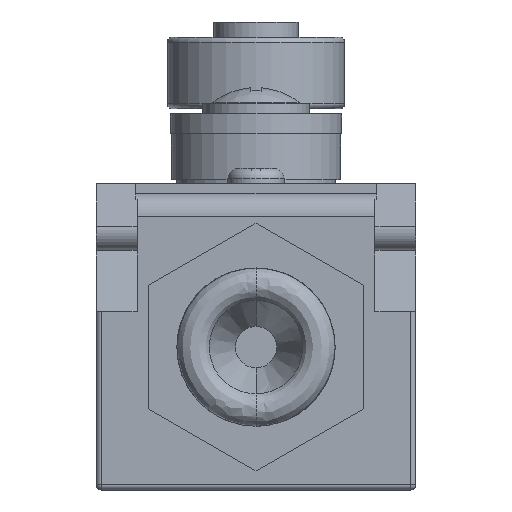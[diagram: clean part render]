
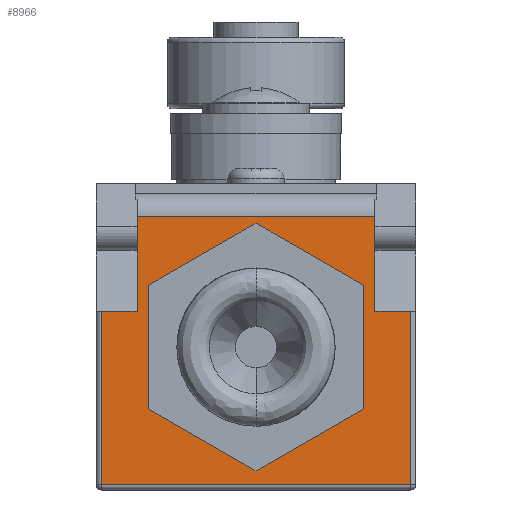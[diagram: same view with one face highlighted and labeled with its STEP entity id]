
A CAD part, front view. The second image highlights one B-rep face of the part: STEP entity #8966.
In plain terms, the highlighted planar face has unit normal (0, -1, 0).
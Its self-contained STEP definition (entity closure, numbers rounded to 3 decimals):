
#475 = FACE_BOUND ( 'NONE', #9394, .T. ) ;
#477 = FACE_OUTER_BOUND ( 'NONE', #9351, .T. ) ;
#928 = LINE ( 'NONE', #929, #3576 ) ;
#929 = CARTESIAN_POINT ( 'NONE',  ( -11.65, -30., 6.8 ) ) ;
#930 = DIRECTION ( 'NONE',  ( 0., 0., -1. ) ) ;
#931 = LINE ( 'NONE', #932, #3577 ) ;
#932 = CARTESIAN_POINT ( 'NONE',  ( -15.65, -30., 16.071 ) ) ;
#933 = DIRECTION ( 'NONE',  ( -1., 0., 0. ) ) ;
#934 = LINE ( 'NONE', #935, #3563 ) ;
#935 = CARTESIAN_POINT ( 'NONE',  ( -11.65, -30., 6.8 ) ) ;
#936 = DIRECTION ( 'NONE',  ( -1., 0., 0. ) ) ;
#937 = LINE ( 'NONE', #938, #3555 ) ;
#938 = CARTESIAN_POINT ( 'NONE',  ( -15.15, -30., 10.7 ) ) ;
#939 = DIRECTION ( 'NONE',  ( 0., 0., -1. ) ) ;
#940 = LINE ( 'NONE', #941, #3564 ) ;
#941 = CARTESIAN_POINT ( 'NONE',  ( 15.65, -30., -10.2 ) ) ;
#942 = DIRECTION ( 'NONE',  ( 1., 0., 0. ) ) ;
#943 = LINE ( 'NONE', #944, #3557 ) ;
#944 = CARTESIAN_POINT ( 'NONE',  ( 15.15, -30., 10.7 ) ) ;
#945 = DIRECTION ( 'NONE',  ( 0., 0., 1. ) ) ;
#946 = LINE ( 'NONE', #947, #3559 ) ;
#947 = CARTESIAN_POINT ( 'NONE',  ( 11.65, -30., 6.8 ) ) ;
#948 = DIRECTION ( 'NONE',  ( 1., 0., 0. ) ) ;
#949 = LINE ( 'NONE', #950, #3562 ) ;
#950 = CARTESIAN_POINT ( 'NONE',  ( -10.5, -30., 9.362 ) ) ;
#951 = DIRECTION ( 'NONE',  ( 0., 0., -1. ) ) ;
#952 = LINE ( 'NONE', #953, #3572 ) ;
#953 = CARTESIAN_POINT ( 'NONE',  ( 11.65, -30., 6.8 ) ) ;
#954 = DIRECTION ( 'NONE',  ( 0., 0., -1. ) ) ;
#955 = LINE ( 'NONE', #956, #3568 ) ;
#956 = CARTESIAN_POINT ( 'NONE',  ( -10.5, -30., -2.762 ) ) ;
#957 = DIRECTION ( 'NONE',  ( 0.866, 0., -0.5 ) ) ;
#958 = LINE ( 'NONE', #959, #3579 ) ;
#959 = CARTESIAN_POINT ( 'NONE',  ( 0., -30., 15.424 ) ) ;
#960 = DIRECTION ( 'NONE',  ( -0.866, 0., -0.5 ) ) ;
#961 = LINE ( 'NONE', #962, #3528 ) ;
#962 = CARTESIAN_POINT ( 'NONE',  ( 10.5, -30., 9.362 ) ) ;
#963 = DIRECTION ( 'NONE',  ( -0.866, 0., 0.5 ) ) ;
#964 = LINE ( 'NONE', #965, #3814 ) ;
#965 = CARTESIAN_POINT ( 'NONE',  ( 10.5, -30., -2.762 ) ) ;
#966 = DIRECTION ( 'NONE',  ( 0., 0., 1. ) ) ;
#967 = LINE ( 'NONE', #968, #3548 ) ;
#968 = CARTESIAN_POINT ( 'NONE',  ( 0., -30., -8.824 ) ) ;
#969 = DIRECTION ( 'NONE',  ( 0.866, 0., 0.5 ) ) ;
#2498 = VERTEX_POINT ( 'NONE', #2866 ) ;
#2499 = VERTEX_POINT ( 'NONE', #2867 ) ;
#2500 = VERTEX_POINT ( 'NONE', #2868 ) ;
#2501 = VERTEX_POINT ( 'NONE', #2869 ) ;
#2502 = VERTEX_POINT ( 'NONE', #2870 ) ;
#2503 = VERTEX_POINT ( 'NONE', #2871 ) ;
#2504 = VERTEX_POINT ( 'NONE', #2872 ) ;
#2505 = VERTEX_POINT ( 'NONE', #2873 ) ;
#2506 = VERTEX_POINT ( 'NONE', #2874 ) ;
#2507 = VERTEX_POINT ( 'NONE', #2875 ) ;
#2508 = VERTEX_POINT ( 'NONE', #2876 ) ;
#2509 = VERTEX_POINT ( 'NONE', #2877 ) ;
#2510 = VERTEX_POINT ( 'NONE', #2878 ) ;
#2511 = VERTEX_POINT ( 'NONE', #2879 ) ;
#2866 = CARTESIAN_POINT ( 'NONE',  ( 10.5, -30., -2.762 ) ) ;
#2867 = CARTESIAN_POINT ( 'NONE',  ( 10.5, -30., 9.362 ) ) ;
#2868 = CARTESIAN_POINT ( 'NONE',  ( 0., -30., 15.424 ) ) ;
#2869 = CARTESIAN_POINT ( 'NONE',  ( -10.5, -30., 9.362 ) ) ;
#2870 = CARTESIAN_POINT ( 'NONE',  ( 0., -30., -8.824 ) ) ;
#2871 = CARTESIAN_POINT ( 'NONE',  ( -10.5, -30., -2.762 ) ) ;
#2872 = CARTESIAN_POINT ( 'NONE',  ( 11.65, -30., 6.8 ) ) ;
#2873 = CARTESIAN_POINT ( 'NONE',  ( 15.15, -30., 6.8 ) ) ;
#2874 = CARTESIAN_POINT ( 'NONE',  ( 15.15, -30., -10.2 ) ) ;
#2875 = CARTESIAN_POINT ( 'NONE',  ( -15.15, -30., -10.2 ) ) ;
#2876 = CARTESIAN_POINT ( 'NONE',  ( -15.15, -30., 6.8 ) ) ;
#2877 = CARTESIAN_POINT ( 'NONE',  ( -11.65, -30., 6.8 ) ) ;
#2878 = CARTESIAN_POINT ( 'NONE',  ( -11.65, -30., 16.071 ) ) ;
#2879 = CARTESIAN_POINT ( 'NONE',  ( 11.65, -30., 16.071 ) ) ;
#3528 = VECTOR ( 'NONE', #963, 1000. ) ;
#3548 = VECTOR ( 'NONE', #969, 1000. ) ;
#3555 = VECTOR ( 'NONE', #939, 1000. ) ;
#3557 = VECTOR ( 'NONE', #945, 1000. ) ;
#3559 = VECTOR ( 'NONE', #948, 1000. ) ;
#3562 = VECTOR ( 'NONE', #951, 1000. ) ;
#3563 = VECTOR ( 'NONE', #936, 1000. ) ;
#3564 = VECTOR ( 'NONE', #942, 1000. ) ;
#3568 = VECTOR ( 'NONE', #957, 1000. ) ;
#3572 = VECTOR ( 'NONE', #954, 1000. ) ;
#3576 = VECTOR ( 'NONE', #930, 1000. ) ;
#3577 = VECTOR ( 'NONE', #933, 1000. ) ;
#3579 = VECTOR ( 'NONE', #960, 1000. ) ;
#3814 = VECTOR ( 'NONE', #966, 1000. ) ;
#5394 = ORIENTED_EDGE ( 'NONE', *, *, #8621, .F. ) ;
#5395 = ORIENTED_EDGE ( 'NONE', *, *, #8620, .F. ) ;
#5396 = ORIENTED_EDGE ( 'NONE', *, *, #8619, .F. ) ;
#5397 = ORIENTED_EDGE ( 'NONE', *, *, #8615, .F. ) ;
#5398 = ORIENTED_EDGE ( 'NONE', *, *, #8618, .F. ) ;
#5399 = ORIENTED_EDGE ( 'NONE', *, *, #8617, .F. ) ;
#5400 = ORIENTED_EDGE ( 'NONE', *, *, #8616, .F. ) ;
#5401 = ORIENTED_EDGE ( 'NONE', *, *, #8614, .F. ) ;
#5402 = ORIENTED_EDGE ( 'NONE', *, *, #8613, .T. ) ;
#5403 = ORIENTED_EDGE ( 'NONE', *, *, #8612, .T. ) ;
#5404 = ORIENTED_EDGE ( 'NONE', *, *, #8611, .T. ) ;
#5405 = ORIENTED_EDGE ( 'NONE', *, *, #8608, .T. ) ;
#5406 = ORIENTED_EDGE ( 'NONE', *, *, #8610, .T. ) ;
#5409 = ORIENTED_EDGE ( 'NONE', *, *, #8609, .T. ) ;
#6991 = PLANE ( 'NONE',  #9500 ) ;
#6992 = CARTESIAN_POINT ( 'NONE',  ( -15.65, -30., 19.3 ) ) ;
#6993 = DIRECTION ( 'NONE',  ( 0., 1., 0. ) ) ;
#6994 = DIRECTION ( 'NONE',  ( 0., 0., 1. ) ) ;
#8608 = EDGE_CURVE ( 'NONE', #2510, #2509, #928, .T. ) ;
#8609 = EDGE_CURVE ( 'NONE', #2511, #2510, #931, .T. ) ;
#8610 = EDGE_CURVE ( 'NONE', #2509, #2508, #934, .T. ) ;
#8611 = EDGE_CURVE ( 'NONE', #2508, #2507, #937, .T. ) ;
#8612 = EDGE_CURVE ( 'NONE', #2507, #2506, #940, .T. ) ;
#8613 = EDGE_CURVE ( 'NONE', #2506, #2505, #943, .T. ) ;
#8614 = EDGE_CURVE ( 'NONE', #2504, #2505, #946, .T. ) ;
#8615 = EDGE_CURVE ( 'NONE', #2501, #2503, #949, .T. ) ;
#8616 = EDGE_CURVE ( 'NONE', #2511, #2504, #952, .T. ) ;
#8617 = EDGE_CURVE ( 'NONE', #2503, #2502, #955, .T. ) ;
#8618 = EDGE_CURVE ( 'NONE', #2500, #2501, #958, .T. ) ;
#8619 = EDGE_CURVE ( 'NONE', #2499, #2500, #961, .T. ) ;
#8620 = EDGE_CURVE ( 'NONE', #2498, #2499, #964, .T. ) ;
#8621 = EDGE_CURVE ( 'NONE', #2502, #2498, #967, .T. ) ;
#8966 = ADVANCED_FACE ( 'NONE', ( #477, #475 ), #6991, .F. ) ;
#9351 = EDGE_LOOP ( 'NONE', ( #5409, #5405, #5406, #5404, #5403, #5402, #5401, #5400 ) ) ;
#9394 = EDGE_LOOP ( 'NONE', ( #5399, #5397, #5398, #5396, #5395, #5394 ) ) ;
#9500 = AXIS2_PLACEMENT_3D ( 'NONE', #6992, #6993, #6994 ) ;
